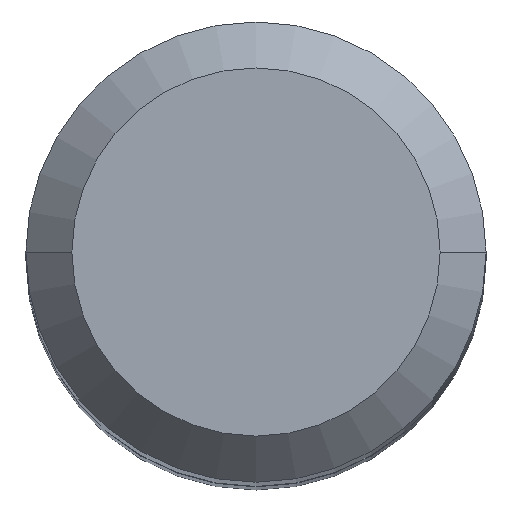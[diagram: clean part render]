
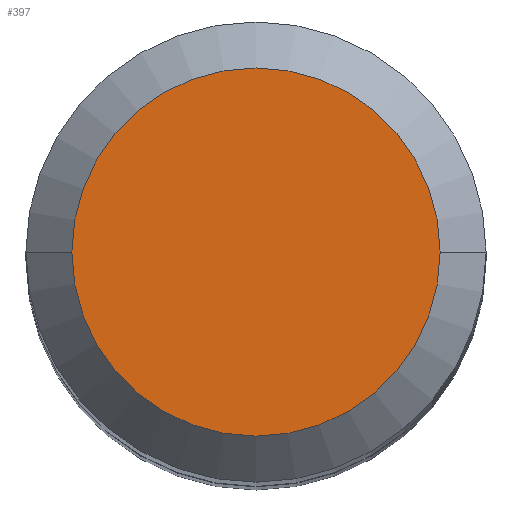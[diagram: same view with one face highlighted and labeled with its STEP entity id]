
A CAD part, top view. The second image highlights one B-rep face of the part: STEP entity #397.
In plain terms, the highlighted planar face has unit normal (0, 0, 1).
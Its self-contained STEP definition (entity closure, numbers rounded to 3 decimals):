
#25 = AXIS2_PLACEMENT_3D ( 'NONE', #132, #137, #86 ) ;
#73 = FACE_OUTER_BOUND ( 'NONE', #339, .T. ) ;
#76 = DIRECTION ( 'NONE',  ( -1., 0., 0. ) ) ;
#86 = DIRECTION ( 'NONE',  ( -1., 0., 0. ) ) ;
#110 = ORIENTED_EDGE ( 'NONE', *, *, #415, .F. ) ;
#114 = CARTESIAN_POINT ( 'NONE',  ( -3.2, 0., 0. ) ) ;
#132 = CARTESIAN_POINT ( 'NONE',  ( 0., 0., 0. ) ) ;
#137 = DIRECTION ( 'NONE',  ( 0., 0., -1. ) ) ;
#171 = CARTESIAN_POINT ( 'NONE',  ( 0., 0., 0. ) ) ;
#219 = CIRCLE ( 'NONE', #487, 3.2 ) ;
#220 = PLANE ( 'NONE',  #496 ) ;
#295 = CIRCLE ( 'NONE', #25, 3.2 ) ;
#299 = DIRECTION ( 'NONE',  ( 0., 0., -1. ) ) ;
#339 = EDGE_LOOP ( 'NONE', ( #110, #404 ) ) ;
#347 = DIRECTION ( 'NONE',  ( 0., 0., 1. ) ) ;
#355 = VERTEX_POINT ( 'NONE', #114 ) ;
#397 = ADVANCED_FACE ( 'NONE', ( #73 ), #220, .T. ) ;
#404 = ORIENTED_EDGE ( 'NONE', *, *, #586, .F. ) ;
#415 = EDGE_CURVE ( 'NONE', #355, #527, #219, .T. ) ;
#487 = AXIS2_PLACEMENT_3D ( 'NONE', #171, #299, #76 ) ;
#496 = AXIS2_PLACEMENT_3D ( 'NONE', #501, #347, #549 ) ;
#501 = CARTESIAN_POINT ( 'NONE',  ( 0., 3.2, 0. ) ) ;
#527 = VERTEX_POINT ( 'NONE', #543 ) ;
#543 = CARTESIAN_POINT ( 'NONE',  ( 3.2, 0., 0. ) ) ;
#549 = DIRECTION ( 'NONE',  ( 1., 0., 0. ) ) ;
#586 = EDGE_CURVE ( 'NONE', #527, #355, #295, .T. ) ;
